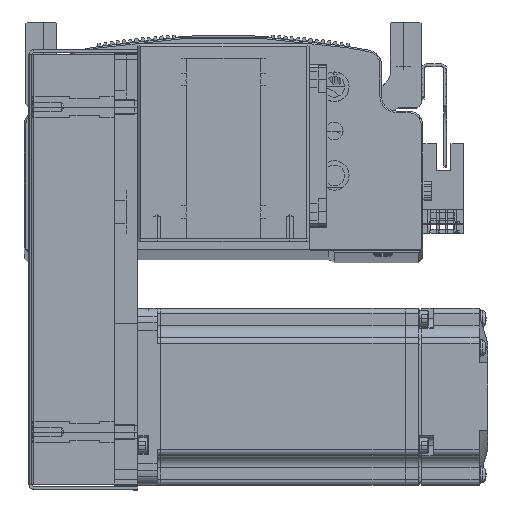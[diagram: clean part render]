
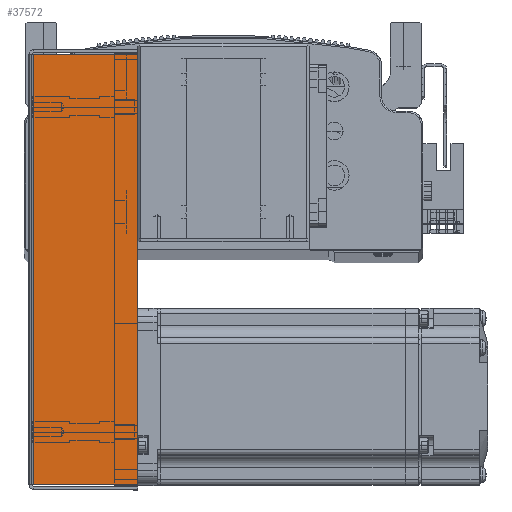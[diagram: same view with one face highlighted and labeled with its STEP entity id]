
A CAD part, top view. The second image highlights one B-rep face of the part: STEP entity #37572.
In plain terms, the highlighted planar face has unit normal (0, 0, 1) as drawn and (0, 0, -1) by its records, which use the part's own axes.
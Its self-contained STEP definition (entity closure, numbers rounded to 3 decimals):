
#2404 = LINE ( 'NONE', #10541, #2409 ) ;
#2409 = VECTOR ( 'NONE', #10527, 1000. ) ;
#2411 = LINE ( 'NONE', #10546, #2418 ) ;
#2418 = VECTOR ( 'NONE', #10537, 1000. ) ;
#2461 = LINE ( 'NONE', #10483, #2492 ) ;
#2492 = VECTOR ( 'NONE', #10540, 1000. ) ;
#2574 = LINE ( 'NONE', #10545, #2578 ) ;
#2578 = VECTOR ( 'NONE', #10531, 1000. ) ;
#3436 = AXIS2_PLACEMENT_3D ( 'NONE', #31778, #31768, #31764 ) ;
#10483 = CARTESIAN_POINT ( 'NONE',  ( 0., 36., -34.5 ) ) ;
#10527 = DIRECTION ( 'NONE',  ( 1., 0., 0. ) ) ;
#10531 = DIRECTION ( 'NONE',  ( 0., 1., 0. ) ) ;
#10537 = DIRECTION ( 'NONE',  ( 0., 1., 0. ) ) ;
#10540 = DIRECTION ( 'NONE',  ( 1., 0., 0. ) ) ;
#10541 = CARTESIAN_POINT ( 'NONE',  ( 74.5, 0.737, -34.5 ) ) ;
#10545 = CARTESIAN_POINT ( 'NONE',  ( -72.793, 0., -34.5 ) ) ;
#10546 = CARTESIAN_POINT ( 'NONE',  ( 72.793, 0., -34.5 ) ) ;
#11736 = CARTESIAN_POINT ( 'NONE',  ( 72.793, 0.737, -34.5 ) ) ;
#11803 = CARTESIAN_POINT ( 'NONE',  ( 72.793, 36., -34.5 ) ) ;
#11893 = CARTESIAN_POINT ( 'NONE',  ( -72.793, 36., -34.5 ) ) ;
#11904 = CARTESIAN_POINT ( 'NONE',  ( -72.793, 0.737, -34.5 ) ) ;
#30780 = ORIENTED_EDGE ( 'NONE', *, *, #65242, .T. ) ;
#30788 = ORIENTED_EDGE ( 'NONE', *, *, #65271, .T. ) ;
#30799 = ORIENTED_EDGE ( 'NONE', *, *, #65261, .F. ) ;
#30807 = ORIENTED_EDGE ( 'NONE', *, *, #65258, .F. ) ;
#31764 = DIRECTION ( 'NONE',  ( 0., -1., 0. ) ) ;
#31768 = DIRECTION ( 'NONE',  ( 0., 0., 1. ) ) ;
#31778 = CARTESIAN_POINT ( 'NONE',  ( 0., 0., -34.5 ) ) ;
#31793 = PLANE ( 'NONE',  #3436 ) ;
#36276 = EDGE_LOOP ( 'NONE', ( #30807, #30788, #30780, #30799 ) ) ;
#37572 = ADVANCED_FACE ( 'NONE', ( #40434 ), #31793, .F. ) ;
#40434 = FACE_OUTER_BOUND ( 'NONE', #36276, .T. ) ;
#65242 = EDGE_CURVE ( 'NONE', #85634, #85583, #2461, .T. ) ;
#65258 = EDGE_CURVE ( 'NONE', #85613, #85540, #2404, .T. ) ;
#65261 = EDGE_CURVE ( 'NONE', #85540, #85583, #2411, .T. ) ;
#65271 = EDGE_CURVE ( 'NONE', #85613, #85634, #2574, .T. ) ;
#85540 = VERTEX_POINT ( 'NONE', #11736 ) ;
#85583 = VERTEX_POINT ( 'NONE', #11803 ) ;
#85613 = VERTEX_POINT ( 'NONE', #11904 ) ;
#85634 = VERTEX_POINT ( 'NONE', #11893 ) ;
